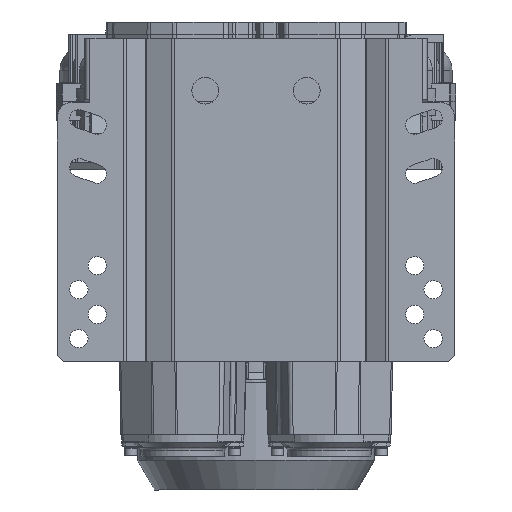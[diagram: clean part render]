
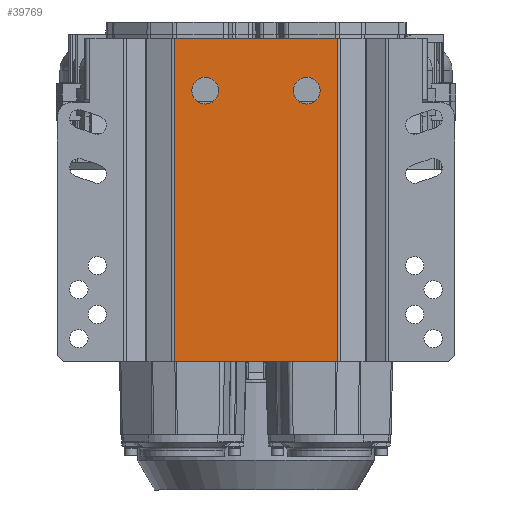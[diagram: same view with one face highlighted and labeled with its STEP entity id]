
A CAD part, front view. The second image highlights one B-rep face of the part: STEP entity #39769.
In plain terms, the highlighted planar face has unit normal (0, -1, 0).
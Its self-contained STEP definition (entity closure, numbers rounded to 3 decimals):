
#2806 = CARTESIAN_POINT ( 'NONE',  ( 67.005, -199., 194.4 ) ) ;
#3032 = EDGE_LOOP ( 'NONE', ( #21662, #84155, #84305, #10456 ) ) ;
#3595 = CIRCLE ( 'NONE', #55540, 11. ) ;
#4723 = FACE_BOUND ( 'NONE', #64281, .T. ) ;
#4939 = VECTOR ( 'NONE', #49724, 1000. ) ;
#10195 = CARTESIAN_POINT ( 'NONE',  ( -67.005, -199., 194.4 ) ) ;
#10371 = VERTEX_POINT ( 'NONE', #55172 ) ;
#10456 = ORIENTED_EDGE ( 'NONE', *, *, #59682, .T. ) ;
#10537 = LINE ( 'NONE', #49229, #4939 ) ;
#11014 = VERTEX_POINT ( 'NONE', #40126 ) ;
#14123 = EDGE_CURVE ( 'NONE', #11014, #24840, #94231, .T. ) ;
#15654 = CIRCLE ( 'NONE', #72583, 11. ) ;
#16352 = EDGE_CURVE ( 'NONE', #59320, #59320, #15654, .T. ) ;
#21662 = ORIENTED_EDGE ( 'NONE', *, *, #98769, .F. ) ;
#23073 = DIRECTION ( 'NONE',  ( 0., 0., 1. ) ) ;
#24004 = CARTESIAN_POINT ( 'NONE',  ( 67.005, -199., 194.4 ) ) ;
#24502 = DIRECTION ( 'NONE',  ( -1., 0., 0. ) ) ;
#24840 = VERTEX_POINT ( 'NONE', #62173 ) ;
#25451 = DIRECTION ( 'NONE',  ( 0., 0., -1. ) ) ;
#26111 = EDGE_LOOP ( 'NONE', ( #33014 ) ) ;
#26425 = VERTEX_POINT ( 'NONE', #27828 ) ;
#27828 = CARTESIAN_POINT ( 'NONE',  ( -67.005, -199., -70.6 ) ) ;
#33014 = ORIENTED_EDGE ( 'NONE', *, *, #16352, .F. ) ;
#33331 = DIRECTION ( 'NONE',  ( 0., 0., -1. ) ) ;
#38364 = CARTESIAN_POINT ( 'NONE',  ( -41.5, -199., 151.4 ) ) ;
#39374 = DIRECTION ( 'NONE',  ( 0., -1., 0. ) ) ;
#39769 = ADVANCED_FACE ( 'NONE', ( #4723, #56628, #64781 ), #43381, .T. ) ;
#40126 = CARTESIAN_POINT ( 'NONE',  ( 67.005, -199., 194.4 ) ) ;
#40172 = VECTOR ( 'NONE', #25451, 1000. ) ;
#40213 = DIRECTION ( 'NONE',  ( 0., 0., 1. ) ) ;
#40629 = VERTEX_POINT ( 'NONE', #63886 ) ;
#41382 = CARTESIAN_POINT ( 'NONE',  ( 67.005, -199., 194.4 ) ) ;
#43381 = PLANE ( 'NONE',  #65835 ) ;
#49229 = CARTESIAN_POINT ( 'NONE',  ( 67.005, -199., -70.6 ) ) ;
#49724 = DIRECTION ( 'NONE',  ( -1., 0., 0. ) ) ;
#49817 = EDGE_CURVE ( 'NONE', #11014, #40629, #70998, .T. ) ;
#55172 = CARTESIAN_POINT ( 'NONE',  ( 41.5, -199., 162.4 ) ) ;
#55540 = AXIS2_PLACEMENT_3D ( 'NONE', #85524, #62608, #40213 ) ;
#56628 = FACE_OUTER_BOUND ( 'NONE', #3032, .T. ) ;
#59320 = VERTEX_POINT ( 'NONE', #100035 ) ;
#59682 = EDGE_CURVE ( 'NONE', #24840, #26425, #70783, .T. ) ;
#62173 = CARTESIAN_POINT ( 'NONE',  ( -67.005, -199., 194.4 ) ) ;
#62608 = DIRECTION ( 'NONE',  ( 0., 1., 0. ) ) ;
#63886 = CARTESIAN_POINT ( 'NONE',  ( 67.005, -199., -70.6 ) ) ;
#64281 = EDGE_LOOP ( 'NONE', ( #72695 ) ) ;
#64781 = FACE_BOUND ( 'NONE', #26111, .T. ) ;
#65835 = AXIS2_PLACEMENT_3D ( 'NONE', #41382, #72434, #80088 ) ;
#70783 = LINE ( 'NONE', #10195, #40172 ) ;
#70998 = LINE ( 'NONE', #2806, #87261 ) ;
#72434 = DIRECTION ( 'NONE',  ( 0., -1., 0. ) ) ;
#72583 = AXIS2_PLACEMENT_3D ( 'NONE', #38364, #39374, #23073 ) ;
#72695 = ORIENTED_EDGE ( 'NONE', *, *, #78245, .T. ) ;
#78245 = EDGE_CURVE ( 'NONE', #10371, #10371, #3595, .T. ) ;
#80088 = DIRECTION ( 'NONE',  ( 0., 0., 1. ) ) ;
#84155 = ORIENTED_EDGE ( 'NONE', *, *, #49817, .F. ) ;
#84305 = ORIENTED_EDGE ( 'NONE', *, *, #14123, .T. ) ;
#85524 = CARTESIAN_POINT ( 'NONE',  ( 41.5, -199., 151.4 ) ) ;
#87261 = VECTOR ( 'NONE', #33331, 1000. ) ;
#94231 = LINE ( 'NONE', #24004, #100395 ) ;
#98769 = EDGE_CURVE ( 'NONE', #40629, #26425, #10537, .T. ) ;
#100035 = CARTESIAN_POINT ( 'NONE',  ( -41.5, -199., 162.4 ) ) ;
#100395 = VECTOR ( 'NONE', #24502, 1000. ) ;
